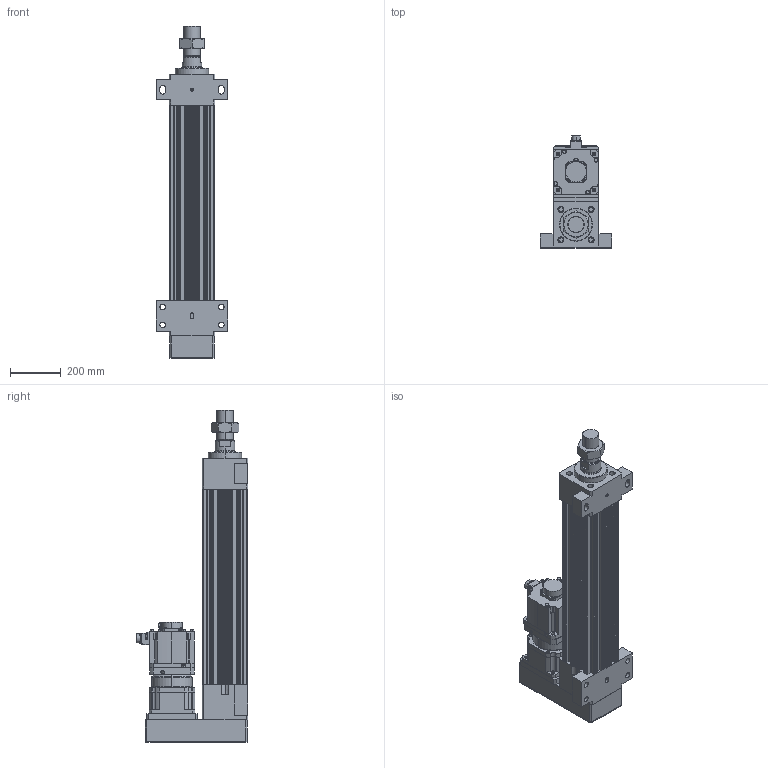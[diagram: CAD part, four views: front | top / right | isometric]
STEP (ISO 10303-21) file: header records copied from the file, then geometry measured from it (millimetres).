
FILE_DESCRIPTION (( 'STEP AP203' ), '1' );
FILE_NAME ('HES180HS-P450-W050G00-M-FFB.STEP', '2023-02-01T06:41:54', ( 'tms' ), ( '' ), 'SwSTEP 2.0', 'SolidWorks 2013', '' );
FILE_SCHEMA (( 'CONFIG_CONTROL_DESIGN' ));
Length unit declared in the file: millimetre
Products named in the file (9): HES180HS-P450-W050G00-M-FFB; AB180-003[HG-SR702B]; AB1801; P1301600001; P0403600401; HES180 ROD M ST450; HG-SR502; HES180-P450-G180-FFB; M64X2.0P
Assembly tree (8 placements, depth 3):
  HES180HS-P450-W050G00-M-FFB
    HES180-P450-G180-FFB
    HES180 ROD M ST450
    M64X2.0P
    AB180-003[HG-SR702B]
      AB1801
      P1301600001
      P0403600401
    HG-SR502
Bounding box: 280 x 438.85 x 1302 mm (x, y, z)
Volume: 29544458.9 mm3; surface area: 2559942.6 mm2
Topology: 4 solids, 19 shells, 1446 faces, 3761 edges, 2443 vertices
Faces by surface type: cylinder 668, plane 567, cone 144, bspline 63, torus 4
Entity records: 53114 total; most frequent: CARTESIAN_POINT 16078, DIRECTION 7777, ORIENTED_EDGE 7426, EDGE_CURVE 3737, AXIS2_PLACEMENT_3D 2922, VERTEX_POINT 2443, LINE 1933, VECTOR 1933
